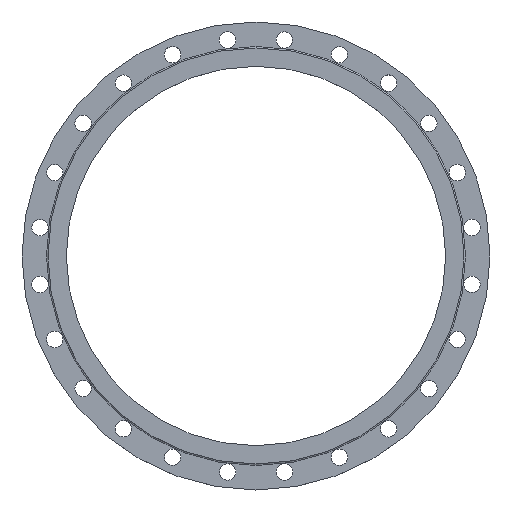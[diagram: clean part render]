
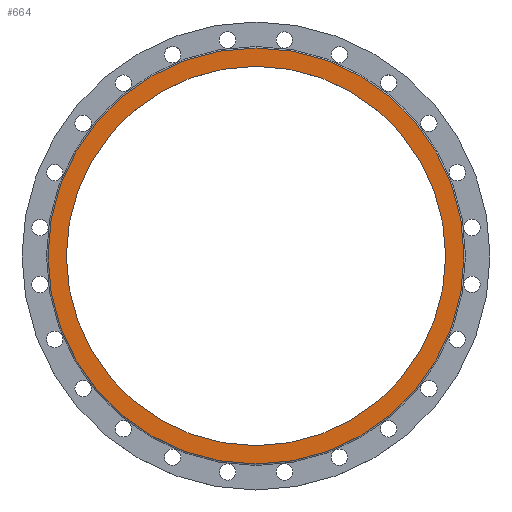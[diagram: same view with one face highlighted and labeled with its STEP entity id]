
A CAD part, top view. The second image highlights one B-rep face of the part: STEP entity #664.
In plain terms, the highlighted planar face has unit normal (0, 0, 1).
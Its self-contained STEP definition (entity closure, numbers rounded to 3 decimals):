
#118=FACE_BOUND('',#231,.T.);
#145=PLANE('',#774);
#175=FACE_OUTER_BOUND('',#230,.T.);
#230=EDGE_LOOP('',(#604,#605));
#231=EDGE_LOOP('',(#606,#607));
#260=CIRCLE('',#689,420.);
#261=CIRCLE('',#690,420.);
#313=CIRCLE('',#768,383.);
#314=CIRCLE('',#769,383.);
#320=VERTEX_POINT('',#989);
#321=VERTEX_POINT('',#991);
#372=VERTEX_POINT('',#1145);
#373=VERTEX_POINT('',#1146);
#379=EDGE_CURVE('',#321,#320,#260,.T.);
#380=EDGE_CURVE('',#320,#321,#261,.T.);
#456=EDGE_CURVE('',#372,#373,#313,.T.);
#457=EDGE_CURVE('',#373,#372,#314,.T.);
#604=ORIENTED_EDGE('',*,*,#379,.T.);
#605=ORIENTED_EDGE('',*,*,#380,.T.);
#606=ORIENTED_EDGE('',*,*,#456,.T.);
#607=ORIENTED_EDGE('',*,*,#457,.T.);
#664=ADVANCED_FACE('',(#175,#118),#145,.T.);
#689=AXIS2_PLACEMENT_3D('',#992,#784,#785);
#690=AXIS2_PLACEMENT_3D('',#993,#786,#787);
#768=AXIS2_PLACEMENT_3D('',#1147,#966,#967);
#769=AXIS2_PLACEMENT_3D('',#1148,#968,#969);
#774=AXIS2_PLACEMENT_3D('',#1158,#980,#981);
#784=DIRECTION('center_axis',(0.,0.,1.));
#785=DIRECTION('ref_axis',(-1.,0.,0.));
#786=DIRECTION('center_axis',(0.,0.,1.));
#787=DIRECTION('ref_axis',(-1.,0.,0.));
#966=DIRECTION('center_axis',(0.,0.,-1.));
#967=DIRECTION('ref_axis',(1.,0.,0.));
#968=DIRECTION('center_axis',(0.,0.,-1.));
#969=DIRECTION('ref_axis',(1.,0.,0.));
#980=DIRECTION('center_axis',(0.,0.,1.));
#981=DIRECTION('ref_axis',(1.,0.,0.));
#989=CARTESIAN_POINT('',(-420.,0.,28.));
#991=CARTESIAN_POINT('',(420.,0.,28.));
#992=CARTESIAN_POINT('Origin',(0.,0.,28.));
#993=CARTESIAN_POINT('Origin',(0.,0.,28.));
#1145=CARTESIAN_POINT('',(383.,0.,28.));
#1146=CARTESIAN_POINT('',(-383.,0.,28.));
#1147=CARTESIAN_POINT('Origin',(0.,0.,28.));
#1148=CARTESIAN_POINT('Origin',(0.,0.,28.));
#1158=CARTESIAN_POINT('Origin',(0.,0.,28.));
